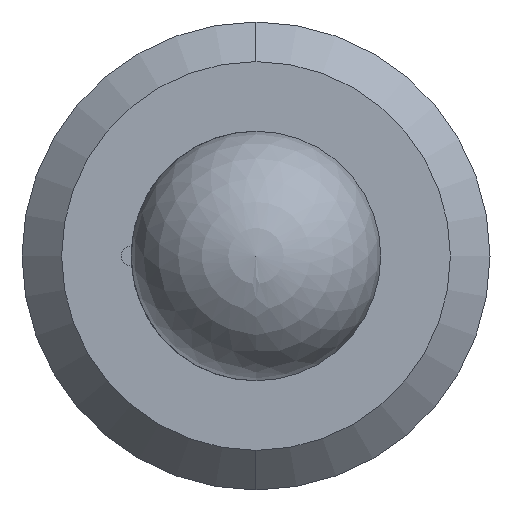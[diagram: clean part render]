
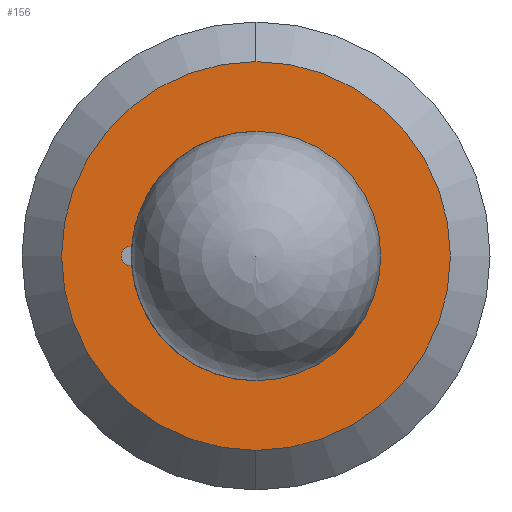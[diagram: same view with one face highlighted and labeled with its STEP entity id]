
A CAD part, left-side view. The second image highlights one B-rep face of the part: STEP entity #156.
In plain terms, the highlighted planar face has unit normal (-1, 0, 0).
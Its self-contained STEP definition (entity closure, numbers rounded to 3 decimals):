
#13 = AXIS2_PLACEMENT_3D ( 'NONE', #598, #67, #585 ) ;
#24 = CIRCLE ( 'NONE', #743, 0.8 ) ;
#45 = CIRCLE ( 'NONE', #633, 1.246 ) ;
#67 = DIRECTION ( 'NONE',  ( 1., 0., 0. ) ) ;
#70 = CARTESIAN_POINT ( 'NONE',  ( 0., 0., 0. ) ) ;
#74 = ORIENTED_EDGE ( 'NONE', *, *, #378, .F. ) ;
#82 = AXIS2_PLACEMENT_3D ( 'NONE', #217, #673, #157 ) ;
#84 = CIRCLE ( 'NONE', #82, 0.064 ) ;
#86 = VERTEX_POINT ( 'NONE', #520 ) ;
#106 = VERTEX_POINT ( 'NONE', #227 ) ;
#115 = CARTESIAN_POINT ( 'NONE',  ( 0., 0.8, 0. ) ) ;
#123 = EDGE_CURVE ( 'NONE', #106, #86, #84, .T. ) ;
#127 = ORIENTED_EDGE ( 'NONE', *, *, #190, .F. ) ;
#136 = DIRECTION ( 'NONE',  ( 0., 0., 1. ) ) ;
#156 = ADVANCED_FACE ( 'NONE', ( #391, #368 ), #292, .F. ) ;
#157 = DIRECTION ( 'NONE',  ( 0., 0., 1. ) ) ;
#176 = EDGE_CURVE ( 'NONE', #703, #431, #510, .T. ) ;
#178 = DIRECTION ( 'NONE',  ( 0., 0., 1. ) ) ;
#190 = EDGE_CURVE ( 'NONE', #86, #211, #624, .T. ) ;
#191 = DIRECTION ( 'NONE',  ( 0., 0., 1. ) ) ;
#193 = AXIS2_PLACEMENT_3D ( 'NONE', #599, #254, #647 ) ;
#202 = EDGE_CURVE ( 'NONE', #431, #280, #24, .T. ) ;
#211 = VERTEX_POINT ( 'NONE', #545 ) ;
#217 = CARTESIAN_POINT ( 'NONE',  ( 0., 0.8, 0. ) ) ;
#223 = ORIENTED_EDGE ( 'NONE', *, *, #240, .T. ) ;
#227 = CARTESIAN_POINT ( 'NONE',  ( 0., 0.8, 0.064 ) ) ;
#240 = EDGE_CURVE ( 'NONE', #581, #561, #45, .T. ) ;
#254 = DIRECTION ( 'NONE',  ( -1., 0., 0. ) ) ;
#258 = ORIENTED_EDGE ( 'NONE', *, *, #123, .F. ) ;
#262 = AXIS2_PLACEMENT_3D ( 'NONE', #331, #668, #191 ) ;
#274 = ORIENTED_EDGE ( 'NONE', *, *, #176, .F. ) ;
#280 = VERTEX_POINT ( 'NONE', #628 ) ;
#292 = PLANE ( 'NONE',  #13 ) ;
#294 = DIRECTION ( 'NONE',  ( -1., 0., 0. ) ) ;
#306 = CARTESIAN_POINT ( 'NONE',  ( 0., 0., 0. ) ) ;
#322 = CIRCLE ( 'NONE', #413, 0.8 ) ;
#328 = CARTESIAN_POINT ( 'NONE',  ( 0., 0., 0.8 ) ) ;
#331 = CARTESIAN_POINT ( 'NONE',  ( 0., 0., 0. ) ) ;
#332 = ORIENTED_EDGE ( 'NONE', *, *, #202, .F. ) ;
#356 = CARTESIAN_POINT ( 'NONE',  ( 0., 0., 0. ) ) ;
#358 = DIRECTION ( 'NONE',  ( 0., 0., -1. ) ) ;
#361 = CARTESIAN_POINT ( 'NONE',  ( 0., 0., -1.246 ) ) ;
#368 = FACE_OUTER_BOUND ( 'NONE', #738, .T. ) ;
#370 = AXIS2_PLACEMENT_3D ( 'NONE', #306, #688, #358 ) ;
#378 = EDGE_CURVE ( 'NONE', #211, #703, #322, .T. ) ;
#384 = EDGE_CURVE ( 'NONE', #280, #106, #604, .T. ) ;
#391 = FACE_BOUND ( 'NONE', #576, .T. ) ;
#396 = EDGE_CURVE ( 'NONE', #561, #581, #465, .T. ) ;
#398 = AXIS2_PLACEMENT_3D ( 'NONE', #115, #532, #178 ) ;
#413 = AXIS2_PLACEMENT_3D ( 'NONE', #356, #740, #417 ) ;
#417 = DIRECTION ( 'NONE',  ( 0., 0., 1. ) ) ;
#431 = VERTEX_POINT ( 'NONE', #328 ) ;
#465 = CIRCLE ( 'NONE', #370, 1.246 ) ;
#498 = DIRECTION ( 'NONE',  ( -1., 0., 0. ) ) ;
#510 = CIRCLE ( 'NONE', #262, 0.8 ) ;
#520 = CARTESIAN_POINT ( 'NONE',  ( 0., 0.8, -0.064 ) ) ;
#532 = DIRECTION ( 'NONE',  ( -1., 0., 0. ) ) ;
#545 = CARTESIAN_POINT ( 'NONE',  ( 0., 0.797, -0.063 ) ) ;
#561 = VERTEX_POINT ( 'NONE', #361 ) ;
#576 = EDGE_LOOP ( 'NONE', ( #74, #127, #258, #611, #332, #274 ) ) ;
#581 = VERTEX_POINT ( 'NONE', #589 ) ;
#585 = DIRECTION ( 'NONE',  ( 0., 0., -1. ) ) ;
#589 = CARTESIAN_POINT ( 'NONE',  ( 0., 0., 1.246 ) ) ;
#598 = CARTESIAN_POINT ( 'NONE',  ( 0., 0., 0. ) ) ;
#599 = CARTESIAN_POINT ( 'NONE',  ( 0., 0.8, 0. ) ) ;
#604 = CIRCLE ( 'NONE', #398, 0.064 ) ;
#611 = ORIENTED_EDGE ( 'NONE', *, *, #384, .F. ) ;
#624 = CIRCLE ( 'NONE', #193, 0.064 ) ;
#626 = CARTESIAN_POINT ( 'NONE',  ( 0., 0., 0. ) ) ;
#628 = CARTESIAN_POINT ( 'NONE',  ( 0., 0.797, 0.063 ) ) ;
#633 = AXIS2_PLACEMENT_3D ( 'NONE', #626, #294, #682 ) ;
#647 = DIRECTION ( 'NONE',  ( 0., 0., 1. ) ) ;
#651 = ORIENTED_EDGE ( 'NONE', *, *, #396, .T. ) ;
#668 = DIRECTION ( 'NONE',  ( -1., 0., 0. ) ) ;
#673 = DIRECTION ( 'NONE',  ( -1., 0., 0. ) ) ;
#682 = DIRECTION ( 'NONE',  ( 0., 0., -1. ) ) ;
#688 = DIRECTION ( 'NONE',  ( -1., 0., 0. ) ) ;
#703 = VERTEX_POINT ( 'NONE', #750 ) ;
#738 = EDGE_LOOP ( 'NONE', ( #651, #223 ) ) ;
#740 = DIRECTION ( 'NONE',  ( -1., 0., 0. ) ) ;
#743 = AXIS2_PLACEMENT_3D ( 'NONE', #70, #498, #136 ) ;
#750 = CARTESIAN_POINT ( 'NONE',  ( 0., 0., -0.8 ) ) ;
